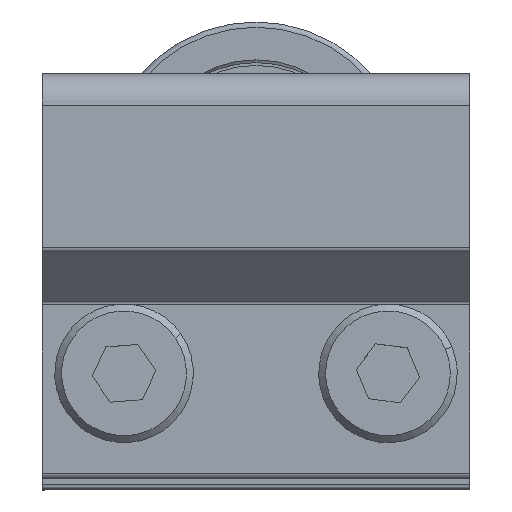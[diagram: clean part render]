
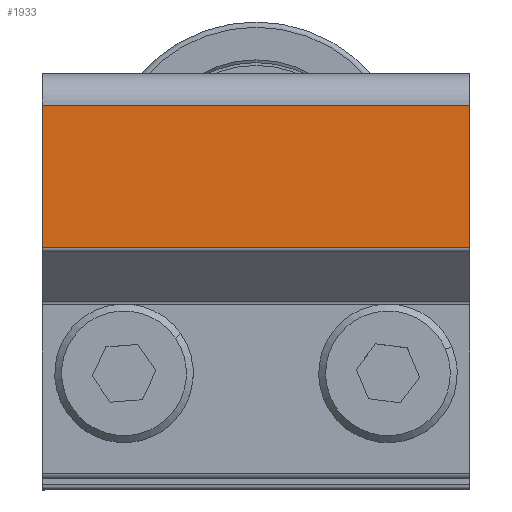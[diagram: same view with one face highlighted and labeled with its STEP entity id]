
A CAD part, top view. The second image highlights one B-rep face of the part: STEP entity #1933.
In plain terms, the highlighted planar face has unit normal (0, 0, 1) as drawn and (1, 0, 0) by its records, which use the part's own axes.
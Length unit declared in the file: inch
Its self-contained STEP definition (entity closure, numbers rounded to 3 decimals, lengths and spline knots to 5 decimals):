
#1432=DIRECTION('',(0.,-1.,0.));
#1433=VECTOR('',#1432,0.40379);
#1434=CARTESIAN_POINT('',(0.375,0.763,-0.608));
#1435=LINE('',#1434,#1433);
#1513=DIRECTION('',(0.,-1.,0.));
#1514=VECTOR('',#1513,0.40379);
#1515=CARTESIAN_POINT('',(0.375,0.763,0.608));
#1516=LINE('',#1515,#1514);
#1582=DIRECTION('',(0.,0.,1.));
#1583=VECTOR('',#1582,1.216);
#1584=CARTESIAN_POINT('',(0.375,0.35921,-0.608));
#1585=LINE('',#1584,#1583);
#1746=DIRECTION('',(0.,0.,-1.));
#1747=VECTOR('',#1746,1.216);
#1748=CARTESIAN_POINT('',(0.375,0.763,0.608));
#1749=LINE('',#1748,#1747);
#1780=CARTESIAN_POINT('',(0.375,0.35921,-0.608));
#1781=CARTESIAN_POINT('',(0.375,0.35921,0.608));
#1782=VERTEX_POINT('',#1780);
#1783=VERTEX_POINT('',#1781);
#1790=CARTESIAN_POINT('',(0.375,0.763,0.608));
#1791=VERTEX_POINT('',#1790);
#1828=CARTESIAN_POINT('',(0.375,0.763,-0.608));
#1829=VERTEX_POINT('',#1828);
#1919=CARTESIAN_POINT('',(0.375,0.763,0.608));
#1920=DIRECTION('',(-1.,0.,0.));
#1921=DIRECTION('',(0.,-1.,0.));
#1922=AXIS2_PLACEMENT_3D('',#1919,#1920,#1921);
#1923=PLANE('',#1922);
#1925=ORIENTED_EDGE('',*,*,#1924,.F.);
#1927=ORIENTED_EDGE('',*,*,#1926,.T.);
#1928=ORIENTED_EDGE('',*,*,#1875,.T.);
#1930=ORIENTED_EDGE('',*,*,#1929,.T.);
#1931=EDGE_LOOP('',(#1925,#1927,#1928,#1930));
#1932=FACE_OUTER_BOUND('',#1931,.F.);
#1875=EDGE_CURVE('',#1829,#1782,#1435,.T.);
#1924=EDGE_CURVE('',#1791,#1783,#1516,.T.);
#1926=EDGE_CURVE('',#1791,#1829,#1749,.T.);
#1929=EDGE_CURVE('',#1782,#1783,#1585,.T.);
#1933=ADVANCED_FACE('',(#1932),#1923,.F.);
